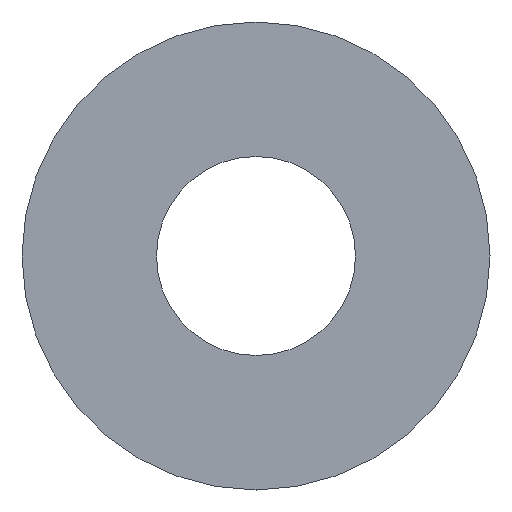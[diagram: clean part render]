
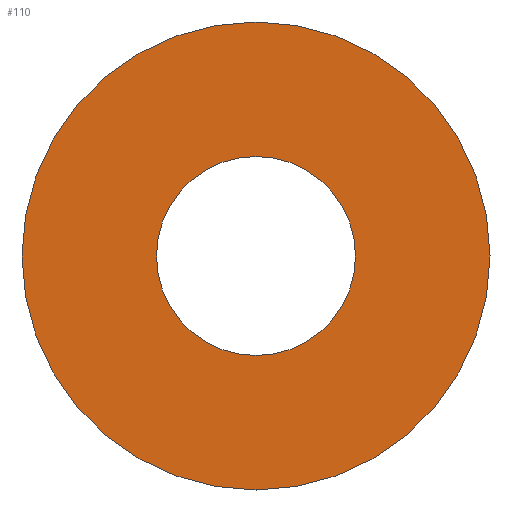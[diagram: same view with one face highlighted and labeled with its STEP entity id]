
A CAD part, left-side view. The second image highlights one B-rep face of the part: STEP entity #110.
In plain terms, the highlighted planar face has unit normal (-1, 0, 0).
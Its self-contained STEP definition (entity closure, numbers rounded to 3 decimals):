
#110=ADVANCED_FACE('',(#128,#129),#122,.T.);
#122=PLANE('',#256);
#128=FACE_BOUND('',#148,.T.);
#129=FACE_BOUND('',#149,.T.);
#148=EDGE_LOOP('',(#170));
#149=EDGE_LOOP('',(#171,#172));
#170=ORIENTED_EDGE('',*,*,#219,.T.);
#171=ORIENTED_EDGE('',*,*,#220,.F.);
#172=ORIENTED_EDGE('',*,*,#221,.F.);
#204=VERTEX_POINT('',#342);
#205=VERTEX_POINT('',#344);
#206=VERTEX_POINT('',#345);
#219=EDGE_CURVE('',#204,#204,#236,.T.);
#220=EDGE_CURVE('',#205,#206,#237,.T.);
#221=EDGE_CURVE('',#206,#205,#238,.T.);
#236=CIRCLE('',#253,1.35);
#237=CIRCLE('',#254,3.175);
#238=CIRCLE('',#255,3.175);
#253=AXIS2_PLACEMENT_3D('',#341,#285,#286);
#254=AXIS2_PLACEMENT_3D('',#343,#287,#288);
#255=AXIS2_PLACEMENT_3D('',#346,#289,#290);
#256=AXIS2_PLACEMENT_3D('',#347,#291,#292);
#285=DIRECTION('',(1.,0.,0.));
#286=DIRECTION('',(0.,0.,1.));
#287=DIRECTION('',(1.,0.,0.));
#288=DIRECTION('',(0.,0.,-1.));
#289=DIRECTION('',(1.,0.,0.));
#290=DIRECTION('',(0.,0.,-1.));
#291=DIRECTION('',(-1.,0.,0.));
#292=DIRECTION('',(0.,0.,1.));
#341=CARTESIAN_POINT('',(0.,0.,0.));
#342=CARTESIAN_POINT('',(0.,0.,1.35));
#343=CARTESIAN_POINT('',(0.,0.,0.));
#344=CARTESIAN_POINT('',(0.,0.,-3.175));
#345=CARTESIAN_POINT('',(0.,0.,3.175));
#346=CARTESIAN_POINT('',(0.,0.,0.));
#347=CARTESIAN_POINT('',(0.,0.,3.175));
